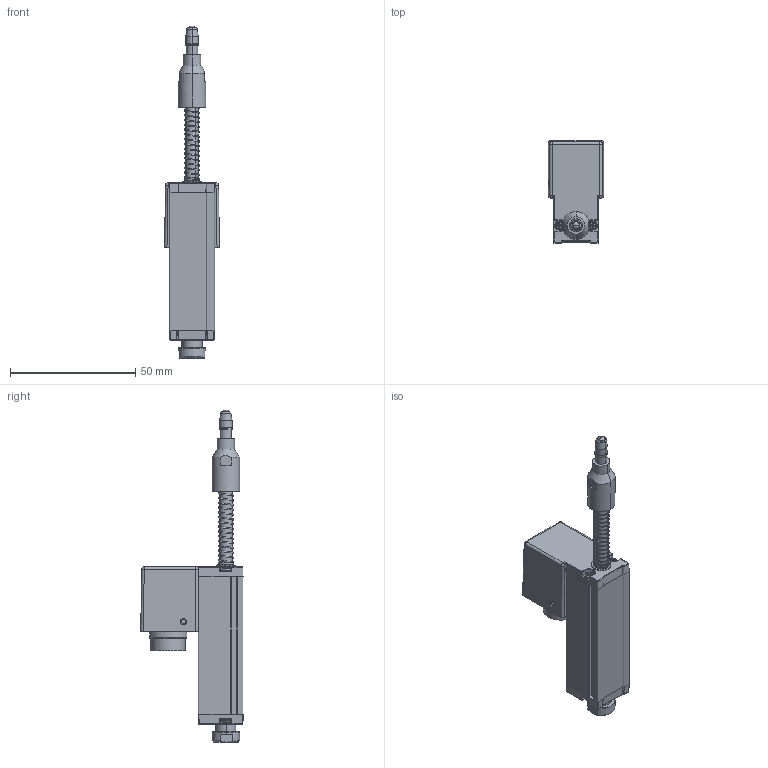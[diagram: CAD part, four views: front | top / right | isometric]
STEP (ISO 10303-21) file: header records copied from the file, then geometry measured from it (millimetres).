
FILE_DESCRIPTION(('FreeCAD Model'),'2;1');
FILE_NAME('O:/12-Produkte/12-10 PM/12-10-40 WEG/01_Produktinfo/SPR18/Zeichnungen & CAD-Daten/SPR18-25-S-.step','2017-03-10T11:10:46',('Author'),(''), 'Open CASCADE STEP processor 6.8','FreeCAD','Unknown');
FILE_SCHEMA(('AUTOMOTIVE_DESIGN_CC2 { 1 2 10303 214 -1 1 5 4 }'));
Length unit declared in the file: millimetre
Products named in the file (3): ASSEMBLY; SPR18_Körper; SPR18_25_S_Körper
Assembly tree (2 placements, depth 2):
  ASSEMBLY
    SPR18_Körper
    SPR18_25_S_Körper
Bounding box: 22 x 41 x 132.58 mm (x, y, z)
Volume: 22016.2 mm3; surface area: 19195.3 mm2
Topology: 2 solids, 6 shells, 801 faces, 2021 edges, 1275 vertices
Faces by surface type: plane 359, cylinder 264, cone 99, torus 36, sphere 22, bspline 17, revolution 4
Entity records: 117051 total; most frequent: CARTESIAN_POINT 75286, DIRECTION 5904, ORIENTED_EDGE 4018, PCURVE 4018, DEFINITIONAL_REPRESENTATION 4018, LINE 2420, VECTOR 2420, B_SPLINE_CURVE_WITH_KNOTS 2254
